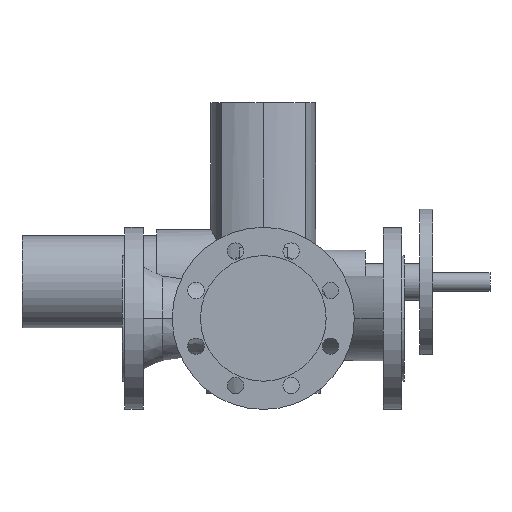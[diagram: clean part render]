
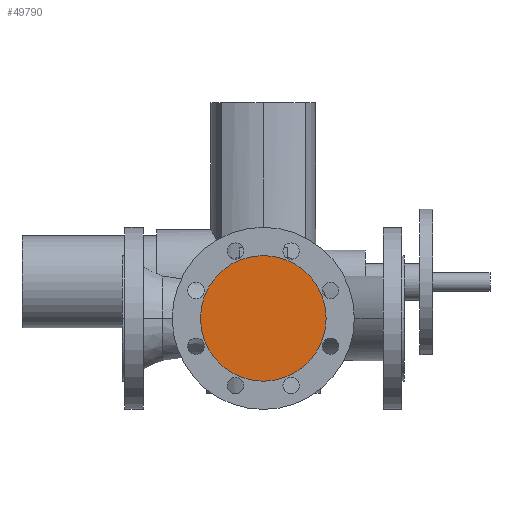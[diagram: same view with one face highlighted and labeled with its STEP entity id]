
A CAD part, front view. The second image highlights one B-rep face of the part: STEP entity #49790.
In plain terms, the highlighted planar face has unit normal (0, -1, 0).
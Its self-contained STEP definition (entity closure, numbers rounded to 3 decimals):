
#2730=CARTESIAN_POINT('',(224.,-130.,0.));
#2740=VERTEX_POINT('',#2730);
#2770=CARTESIAN_POINT('',(155.,-130.,0.));
#2780=DIRECTION('',(0.,1.,0.));
#2790=DIRECTION('',(1.,0.,0.));
#2800=AXIS2_PLACEMENT_3D('',#2770,#2780,#2790);
#2810=CIRCLE('',#2800,69.);
#2820=CARTESIAN_POINT('',(86.,-130.,0.));
#2830=VERTEX_POINT('',#2820);
#2840=EDGE_CURVE('',#2830,#2740,#2810,.T.);
#49690=CARTESIAN_POINT('',(189.5,-130.,0.));
#49700=DIRECTION('',(0.,-1.,0.));
#49710=DIRECTION('',(-1.,0.,0.));
#49720=AXIS2_PLACEMENT_3D('',#49690,#49700,#49710);
#49730=PLANE('',#49720);
#49740=ORIENTED_EDGE('',*,*,#2840,.F.);
#49750=EDGE_CURVE('',#2740,#2830,#2810,.T.);
#49760=ORIENTED_EDGE('',*,*,#49750,.F.);
#49770=EDGE_LOOP('',(#49760,#49740));
#49780=FACE_OUTER_BOUND('',#49770,.T.);
#49790=ADVANCED_FACE('',(#49780),#49730,.T.);
